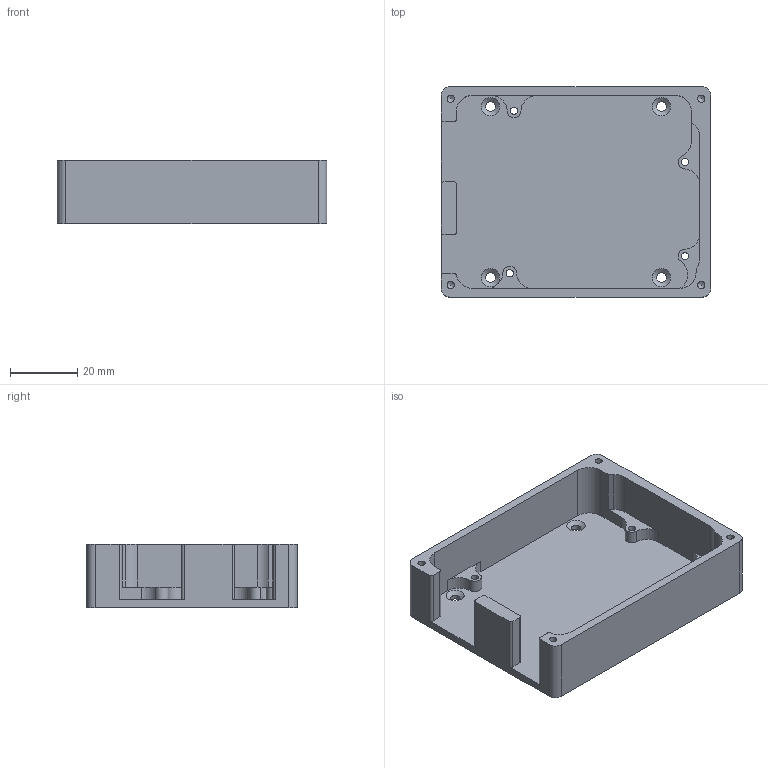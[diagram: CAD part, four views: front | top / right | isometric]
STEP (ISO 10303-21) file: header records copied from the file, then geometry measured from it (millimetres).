
FILE_DESCRIPTION(/* description */ (''),/* implementation_level */ '2;1');
FILE_NAME(/* name */ 'C:/Users/cfox/Desktop/Arduino Case/arduino_case_v1_i4a v46.step',/* time_stamp */ '2016-03-22T10:19:52-05:00',/* author */ (''),/* organization */ (''),/* preprocessor_version */ 'ST-DEVELOPER v16.2',/* originating_system */ 'Autodesk Translation Framework v4.3.0.3010',/* authorisation */ '');
FILE_SCHEMA (('AUTOMOTIVE_DESIGN { 1 0 10303 214 3 1 1 }'));
Length unit declared in the file: centimetre
Products named in the file (2): arduino_case_v1_i4a v46; arduino_case_v1_i4a
Assembly tree (1 placements, depth 2):
  arduino_case_v1_i4a v46
    arduino_case_v1_i4a
Bounding box: 80.01 x 62.48 x 18.8 mm (x, y, z)
Volume: 24295.9 mm3; surface area: 19128.5 mm2
Topology: 1 solids, 1 shells, 74 faces, 215 edges, 143 vertices
Faces by surface type: cylinder 42, plane 24, cone 8
Full cylindrical faces by diameter (mm): 2.159 x4, 2.16 x4, 2.946 x4
Entity records: 2353 total; most frequent: DIRECTION 425, CARTESIAN_POINT 391, ORIENTED_EDGE 366, EDGE_CURVE 183, AXIS2_PLACEMENT_3D 165, VERTEX_POINT 131, EDGE_LOOP 110, LINE 95
